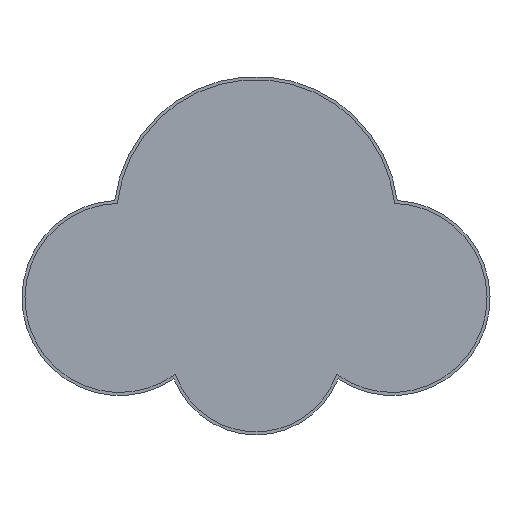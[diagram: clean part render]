
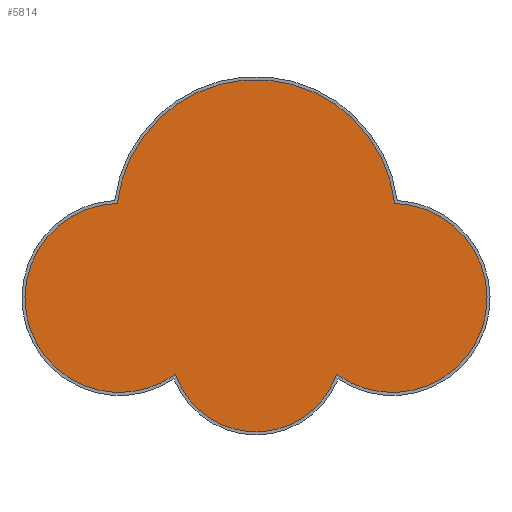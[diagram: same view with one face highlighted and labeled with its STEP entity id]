
A CAD part, front view. The second image highlights one B-rep face of the part: STEP entity #5814.
In plain terms, the highlighted planar face has unit normal (0, -1, 0).
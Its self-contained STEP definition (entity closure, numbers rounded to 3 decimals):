
#389=PLANE('',#6336);
#2048=FACE_OUTER_BOUND('',#2411,.T.);
#2411=EDGE_LOOP('',(#5394,#5395,#5396,#5397));
#2566=CIRCLE('',#6326,113.5);
#2568=CIRCLE('',#6329,126.);
#2570=CIRCLE('',#6332,186.);
#2572=CIRCLE('',#6335,126.);
#3079=VERTEX_POINT('',#9553);
#3080=VERTEX_POINT('',#9555);
#3082=VERTEX_POINT('',#9561);
#3084=VERTEX_POINT('',#9567);
#3853=EDGE_CURVE('',#3079,#3080,#2566,.T.);
#3857=EDGE_CURVE('',#3082,#3079,#2568,.T.);
#3860=EDGE_CURVE('',#3084,#3082,#2570,.T.);
#3862=EDGE_CURVE('',#3080,#3084,#2572,.T.);
#5394=ORIENTED_EDGE('',*,*,#3862,.F.);
#5395=ORIENTED_EDGE('',*,*,#3853,.F.);
#5396=ORIENTED_EDGE('',*,*,#3857,.F.);
#5397=ORIENTED_EDGE('',*,*,#3860,.F.);
#5814=ADVANCED_FACE('',(#2048),#389,.T.);
#6326=AXIS2_PLACEMENT_3D('',#9556,#7887,#7888);
#6329=AXIS2_PLACEMENT_3D('',#9563,#7895,#7896);
#6332=AXIS2_PLACEMENT_3D('',#9569,#7902,#7903);
#6335=AXIS2_PLACEMENT_3D('',#9572,#7908,#7909);
#6336=AXIS2_PLACEMENT_3D('',#9573,#7910,#7911);
#7887=DIRECTION('center_axis',(0.,1.,0.));
#7888=DIRECTION('ref_axis',(-0.946,0.,-0.323));
#7895=DIRECTION('center_axis',(0.,1.,0.));
#7896=DIRECTION('ref_axis',(-0.591,0.,-0.807));
#7902=DIRECTION('center_axis',(0.,1.,0.));
#7903=DIRECTION('ref_axis',(0.994,0.,0.113));
#7908=DIRECTION('center_axis',(0.,1.,0.));
#7909=DIRECTION('ref_axis',(-0.023,0.,1.));
#7910=DIRECTION('center_axis',(0.,-1.,0.));
#7911=DIRECTION('ref_axis',(1.,0.,0.));
#9553=CARTESIAN_POINT('',(107.418,5.,-206.655));
#9555=CARTESIAN_POINT('',(-107.418,5.,-206.655));
#9556=CARTESIAN_POINT('Origin',(0.,5.,-170.));
#9561=CARTESIAN_POINT('',(184.815,5.,20.965));
#9563=CARTESIAN_POINT('Origin',(181.865,5.,-105.));
#9567=CARTESIAN_POINT('',(-184.815,5.,20.965));
#9569=CARTESIAN_POINT('Origin',(0.,5.,0.));
#9572=CARTESIAN_POINT('Origin',(-181.865,5.,-105.));
#9573=CARTESIAN_POINT('Origin',(0.,5.,-48.75));
